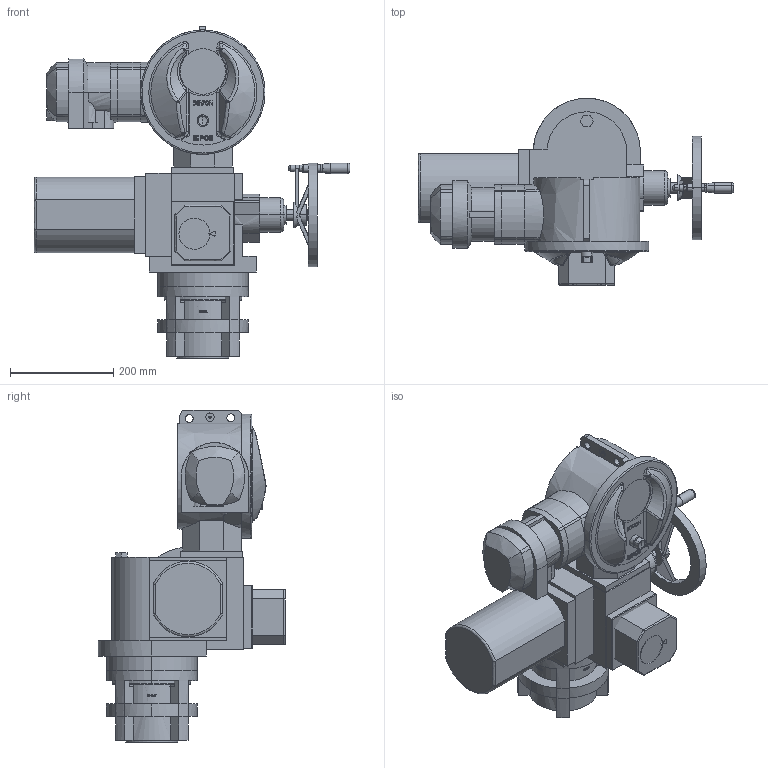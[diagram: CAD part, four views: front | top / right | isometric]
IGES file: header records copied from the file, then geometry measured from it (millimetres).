
Start section: Elysium IGES Interface
Global section: file name: H:\cad\3D-fuer-Kunden\2018_09_STEP-AP214_NURBS_im Internet_eingestellt\2SA7.3_2SA7.4_Output_Speed_C.igs; native system: Creo Elements/Direct Modeling 20.0C  26-Jan-2018; preprocessor: Creo Element/Direct IGES_3D V2.2; author: Unknown; organization: Unknown; date: 20180918.111944; units: millimetre
Bounding box: 610 x 362.5 x 641.6 mm (x, y, z)
Volume: 30931109.9 mm3; surface area: 1572335.3 mm2
Topology: 14 solids, 14 shells, 2305 faces, 6131 edges, 3995 vertices
Faces by surface type: bspline 2305
